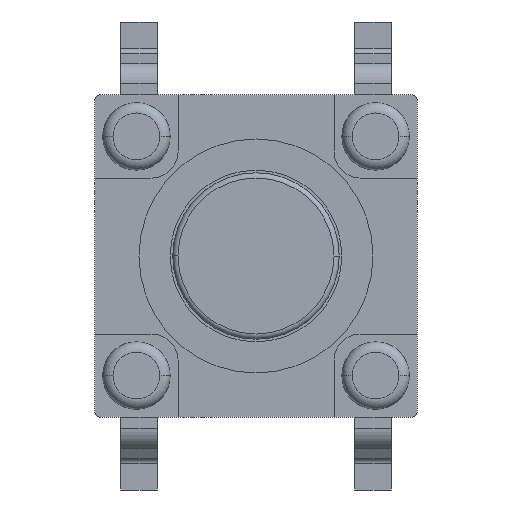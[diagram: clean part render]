
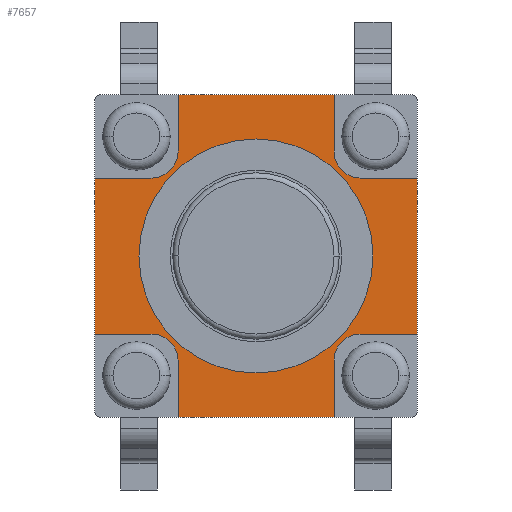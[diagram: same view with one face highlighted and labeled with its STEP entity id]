
A CAD part, front view. The second image highlights one B-rep face of the part: STEP entity #7657.
In plain terms, the highlighted planar face has unit normal (0, -1, 0).
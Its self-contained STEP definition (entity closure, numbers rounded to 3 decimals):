
#6400=DIRECTION('',(0.,0.,1.));
#6401=VECTOR('',#6400,1.1);
#6402=CARTESIAN_POINT('',(-1.5,-1.4,-3.1));
#6403=LINE('',#6402,#6401);
#6407=DIRECTION('',(1.,0.,0.));
#6408=VECTOR('',#6407,1.1);
#6409=CARTESIAN_POINT('',(-3.1,-1.4,-1.5));
#6410=LINE('',#6409,#6408);
#6414=DIRECTION('',(0.,0.,1.));
#6415=VECTOR('',#6414,3.);
#6416=CARTESIAN_POINT('',(-3.1,-1.4,-1.5));
#6417=LINE('',#6416,#6415);
#6421=DIRECTION('',(1.,0.,0.));
#6422=VECTOR('',#6421,1.1);
#6423=CARTESIAN_POINT('',(-3.1,-1.4,1.5));
#6424=LINE('',#6423,#6422);
#6428=DIRECTION('',(0.,0.,-1.));
#6429=VECTOR('',#6428,1.1);
#6430=CARTESIAN_POINT('',(-1.5,-1.4,3.1));
#6431=LINE('',#6430,#6429);
#6435=DIRECTION('',(1.,0.,0.));
#6436=VECTOR('',#6435,3.);
#6437=CARTESIAN_POINT('',(-1.5,-1.4,3.1));
#6438=LINE('',#6437,#6436);
#6442=DIRECTION('',(0.,0.,-1.));
#6443=VECTOR('',#6442,1.1);
#6444=CARTESIAN_POINT('',(1.5,-1.4,3.1));
#6445=LINE('',#6444,#6443);
#6449=DIRECTION('',(-1.,0.,0.));
#6450=VECTOR('',#6449,1.1);
#6451=CARTESIAN_POINT('',(3.1,-1.4,1.5));
#6452=LINE('',#6451,#6450);
#6456=DIRECTION('',(0.,0.,-1.));
#6457=VECTOR('',#6456,3.);
#6458=CARTESIAN_POINT('',(3.1,-1.4,1.5));
#6459=LINE('',#6458,#6457);
#6463=DIRECTION('',(-1.,0.,0.));
#6464=VECTOR('',#6463,1.1);
#6465=CARTESIAN_POINT('',(3.1,-1.4,-1.5));
#6466=LINE('',#6465,#6464);
#6470=DIRECTION('',(0.,0.,1.));
#6471=VECTOR('',#6470,1.1);
#6472=CARTESIAN_POINT('',(1.5,-1.4,-3.1));
#6473=LINE('',#6472,#6471);
#6477=DIRECTION('',(-1.,0.,0.));
#6478=VECTOR('',#6477,3.);
#6479=CARTESIAN_POINT('',(1.5,-1.4,-3.1));
#6480=LINE('',#6479,#6478);
#6484=CARTESIAN_POINT('',(0.,-1.4,0.));
#6485=DIRECTION('',(0.,-1.,0.));
#6486=DIRECTION('',(0.,0.,1.));
#6487=AXIS2_PLACEMENT_3D('',#6484,#6485,#6486);
#6492=CARTESIAN_POINT('',(0.,-1.4,0.));
#6493=DIRECTION('',(0.,-1.,0.));
#6494=DIRECTION('',(0.,0.,-1.));
#6495=AXIS2_PLACEMENT_3D('',#6492,#6493,#6494);
#6507=CARTESIAN_POINT('',(-2.,-1.4,-2.));
#6508=DIRECTION('',(0.,1.,0.));
#6509=DIRECTION('',(0.,0.,1.));
#6510=AXIS2_PLACEMENT_3D('',#6507,#6508,#6509);
#6804=CARTESIAN_POINT('',(2.,-1.4,-2.));
#6805=DIRECTION('',(0.,1.,0.));
#6806=DIRECTION('',(-1.,0.,0.));
#6807=AXIS2_PLACEMENT_3D('',#6804,#6805,#6806);
#6868=CARTESIAN_POINT('',(2.,-1.4,2.));
#6869=DIRECTION('',(0.,1.,0.));
#6870=DIRECTION('',(0.,0.,-1.));
#6871=AXIS2_PLACEMENT_3D('',#6868,#6869,#6870);
#6974=CARTESIAN_POINT('',(-2.,-1.4,2.));
#6975=DIRECTION('',(0.,1.,0.));
#6976=DIRECTION('',(1.,0.,0.));
#6977=AXIS2_PLACEMENT_3D('',#6974,#6975,#6976);
#7332=CARTESIAN_POINT('',(0.,-1.4,2.25));
#7333=VERTEX_POINT('',#7332);
#7334=CARTESIAN_POINT('',(0.,-1.4,-2.25));
#7335=VERTEX_POINT('',#7334);
#7336=CARTESIAN_POINT('',(1.5,-1.4,3.1));
#7338=VERTEX_POINT('',#7336);
#7340=CARTESIAN_POINT('',(-1.5,-1.4,3.1));
#7342=VERTEX_POINT('',#7340);
#7344=CARTESIAN_POINT('',(3.1,-1.4,1.5));
#7346=VERTEX_POINT('',#7344);
#7348=CARTESIAN_POINT('',(3.1,-1.4,-1.5));
#7350=VERTEX_POINT('',#7348);
#7352=CARTESIAN_POINT('',(1.5,-1.4,-3.1));
#7354=VERTEX_POINT('',#7352);
#7356=CARTESIAN_POINT('',(-1.5,-1.4,-3.1));
#7358=VERTEX_POINT('',#7356);
#7360=CARTESIAN_POINT('',(-3.1,-1.4,1.5));
#7362=VERTEX_POINT('',#7360);
#7364=CARTESIAN_POINT('',(-3.1,-1.4,-1.5));
#7366=VERTEX_POINT('',#7364);
#7372=CARTESIAN_POINT('',(1.5,-1.4,-2.));
#7373=VERTEX_POINT('',#7372);
#7374=CARTESIAN_POINT('',(2.,-1.4,-1.5));
#7375=VERTEX_POINT('',#7374);
#7380=CARTESIAN_POINT('',(-2.,-1.4,-1.5));
#7381=VERTEX_POINT('',#7380);
#7382=CARTESIAN_POINT('',(-1.5,-1.4,-2.));
#7383=VERTEX_POINT('',#7382);
#7388=CARTESIAN_POINT('',(-1.5,-1.4,2.));
#7389=VERTEX_POINT('',#7388);
#7390=CARTESIAN_POINT('',(-2.,-1.4,1.5));
#7391=VERTEX_POINT('',#7390);
#7396=CARTESIAN_POINT('',(2.,-1.4,1.5));
#7397=VERTEX_POINT('',#7396);
#7398=CARTESIAN_POINT('',(1.5,-1.4,2.));
#7399=VERTEX_POINT('',#7398);
#7614=CARTESIAN_POINT('',(0.,-1.4,0.));
#7615=DIRECTION('',(0.,1.,0.));
#7616=DIRECTION('',(-1.,0.,0.));
#7617=AXIS2_PLACEMENT_3D('',#7614,#7615,#7616);
#7618=PLANE('',#7617);
#7620=ORIENTED_EDGE('',*,*,#7619,.T.);
#7622=ORIENTED_EDGE('',*,*,#7621,.F.);
#7624=ORIENTED_EDGE('',*,*,#7623,.F.);
#7626=ORIENTED_EDGE('',*,*,#7625,.T.);
#7628=ORIENTED_EDGE('',*,*,#7627,.T.);
#7630=ORIENTED_EDGE('',*,*,#7629,.F.);
#7632=ORIENTED_EDGE('',*,*,#7631,.F.);
#7634=ORIENTED_EDGE('',*,*,#7633,.T.);
#7636=ORIENTED_EDGE('',*,*,#7635,.T.);
#7638=ORIENTED_EDGE('',*,*,#7637,.F.);
#7640=ORIENTED_EDGE('',*,*,#7639,.F.);
#7642=ORIENTED_EDGE('',*,*,#7641,.T.);
#7644=ORIENTED_EDGE('',*,*,#7643,.T.);
#7646=ORIENTED_EDGE('',*,*,#7645,.F.);
#7648=ORIENTED_EDGE('',*,*,#7647,.F.);
#7650=ORIENTED_EDGE('',*,*,#7649,.T.);
#7651=EDGE_LOOP('',(#7620,#7622,#7624,#7626,#7628,#7630,#7632,#7634,#7636,#7638,
#7640,#7642,#7644,#7646,#7648,#7650));
#7652=FACE_OUTER_BOUND('',#7651,.F.);
#7653=ORIENTED_EDGE('',*,*,#7596,.T.);
#7654=ORIENTED_EDGE('',*,*,#7607,.T.);
#7655=EDGE_LOOP('',(#7653,#7654));
#7656=FACE_BOUND('',#7655,.F.);
#6488=CIRCLE('',#6487,2.25);
#6496=CIRCLE('',#6495,2.25);
#6511=CIRCLE('',#6510,0.5);
#6808=CIRCLE('',#6807,0.5);
#6872=CIRCLE('',#6871,0.5);
#6978=CIRCLE('',#6977,0.5);
#7596=EDGE_CURVE('',#7333,#7335,#6488,.T.);
#7607=EDGE_CURVE('',#7335,#7333,#6496,.T.);
#7619=EDGE_CURVE('',#7358,#7383,#6403,.T.);
#7621=EDGE_CURVE('',#7381,#7383,#6511,.T.);
#7623=EDGE_CURVE('',#7366,#7381,#6410,.T.);
#7625=EDGE_CURVE('',#7366,#7362,#6417,.T.);
#7627=EDGE_CURVE('',#7362,#7391,#6424,.T.);
#7629=EDGE_CURVE('',#7389,#7391,#6978,.T.);
#7631=EDGE_CURVE('',#7342,#7389,#6431,.T.);
#7633=EDGE_CURVE('',#7342,#7338,#6438,.T.);
#7635=EDGE_CURVE('',#7338,#7399,#6445,.T.);
#7637=EDGE_CURVE('',#7397,#7399,#6872,.T.);
#7639=EDGE_CURVE('',#7346,#7397,#6452,.T.);
#7641=EDGE_CURVE('',#7346,#7350,#6459,.T.);
#7643=EDGE_CURVE('',#7350,#7375,#6466,.T.);
#7645=EDGE_CURVE('',#7373,#7375,#6808,.T.);
#7647=EDGE_CURVE('',#7354,#7373,#6473,.T.);
#7649=EDGE_CURVE('',#7354,#7358,#6480,.T.);
#7657=ADVANCED_FACE('',(#7652,#7656),#7618,.F.);
